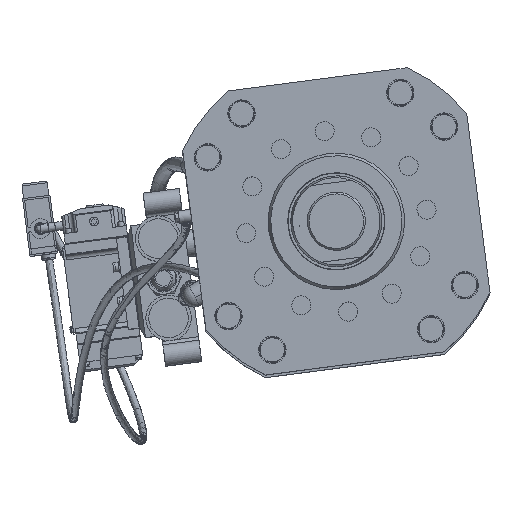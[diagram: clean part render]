
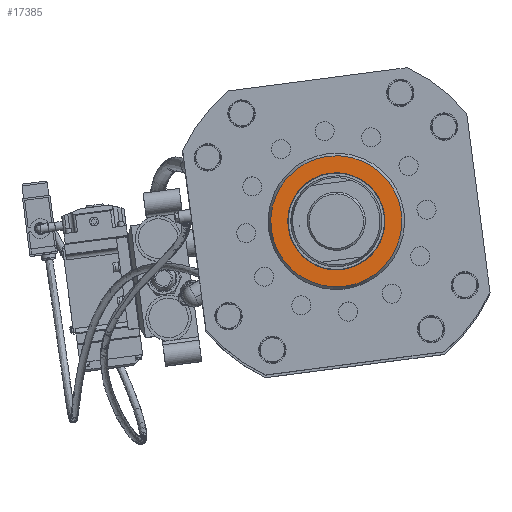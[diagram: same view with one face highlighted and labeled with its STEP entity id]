
A CAD part, top view. The second image highlights one B-rep face of the part: STEP entity #17385.
In plain terms, the highlighted planar face has unit normal (0, 0, 1).
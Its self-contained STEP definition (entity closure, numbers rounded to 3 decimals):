
#4 = CARTESIAN_POINT ( 'NONE',  ( 273.569, -38.943, 229.44 ) ) ;
#1655 = VERTEX_POINT ( 'NONE', #4 ) ;
#2299 = CARTESIAN_POINT ( 'NONE',  ( 264.238, 32.564, 229.44 ) ) ;
#2716 = FACE_BOUND ( 'NONE', #6240, .T. ) ;
#3858 = DIRECTION ( 'NONE',  ( 0., 0., 1. ) ) ;
#4056 = DIRECTION ( 'NONE',  ( 0.129, -0.992, 0. ) ) ;
#4848 = DIRECTION ( 'NONE',  ( 0., 0., 1. ) ) ;
#5444 = FACE_OUTER_BOUND ( 'NONE', #14370, .T. ) ;
#6233 = ORIENTED_EDGE ( 'NONE', *, *, #28256, .F. ) ;
#6240 = EDGE_LOOP ( 'NONE', ( #6233 ) ) ;
#7413 = PLANE ( 'NONE',  #35126 ) ;
#13131 = AXIS2_PLACEMENT_3D ( 'NONE', #2299, #4848, #28364 ) ;
#14370 = EDGE_LOOP ( 'NONE', ( #20802 ) ) ;
#14503 = DIRECTION ( 'NONE',  ( 0.129, -0.992, 0. ) ) ;
#17203 = CIRCLE ( 'NONE', #17778, 53.402 ) ;
#17385 = ADVANCED_FACE ( 'NONE', ( #2716, #5444 ), #7413, .T. ) ;
#17778 = AXIS2_PLACEMENT_3D ( 'NONE', #30857, #3858, #4056 ) ;
#18353 = VERTEX_POINT ( 'NONE', #32799 ) ;
#20802 = ORIENTED_EDGE ( 'NONE', *, *, #26346, .T. ) ;
#23648 = CIRCLE ( 'NONE', #13131, 72.113 ) ;
#26346 = EDGE_CURVE ( 'NONE', #1655, #1655, #23648, .T. ) ;
#28256 = EDGE_CURVE ( 'NONE', #18353, #18353, #17203, .T. ) ;
#28364 = DIRECTION ( 'NONE',  ( 0.129, -0.992, 0. ) ) ;
#28944 = CARTESIAN_POINT ( 'NONE',  ( 264.238, 32.564, 229.44 ) ) ;
#30857 = CARTESIAN_POINT ( 'NONE',  ( 264.238, 32.564, 229.44 ) ) ;
#31338 = DIRECTION ( 'NONE',  ( 0., 0., 1. ) ) ;
#32799 = CARTESIAN_POINT ( 'NONE',  ( 271.148, -20.389, 229.44 ) ) ;
#35126 = AXIS2_PLACEMENT_3D ( 'NONE', #28944, #31338, #14503 ) ;
